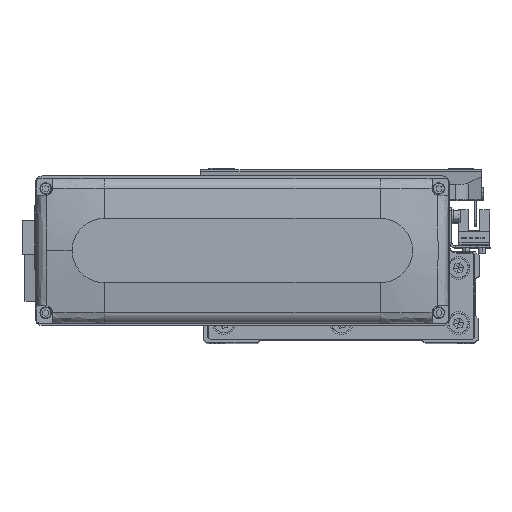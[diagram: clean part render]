
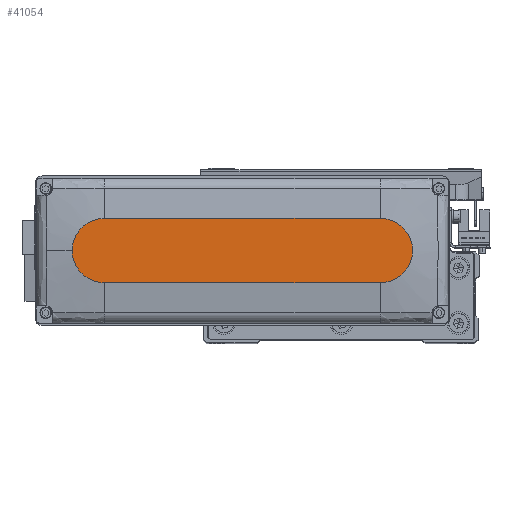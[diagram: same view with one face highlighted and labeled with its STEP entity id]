
A CAD part, top view. The second image highlights one B-rep face of the part: STEP entity #41054.
In plain terms, the highlighted planar face has unit normal (0, 0, 1).
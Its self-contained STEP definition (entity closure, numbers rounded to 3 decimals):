
#664 = CARTESIAN_POINT ( 'NONE',  ( 60., -14., 28.5 ) ) ;
#2404 = DIRECTION ( 'NONE',  ( 1., 0., 0. ) ) ;
#2615 = DIRECTION ( 'NONE',  ( 0., 0., 1. ) ) ;
#3297 = ORIENTED_EDGE ( 'NONE', *, *, #4505, .T. ) ;
#4454 = VERTEX_POINT ( 'NONE', #25184 ) ;
#4505 = EDGE_CURVE ( 'NONE', #14854, #20804, #39301, .T. ) ;
#5170 = VECTOR ( 'NONE', #19083, 1000. ) ;
#5196 = ORIENTED_EDGE ( 'NONE', *, *, #14291, .T. ) ;
#5673 = EDGE_LOOP ( 'NONE', ( #14484, #5196, #3297, #16377, #19877 ) ) ;
#9463 = CARTESIAN_POINT ( 'NONE',  ( 60., 0., 28.5 ) ) ;
#10262 = VERTEX_POINT ( 'NONE', #31784 ) ;
#12797 = EDGE_CURVE ( 'NONE', #20804, #10262, #27511, .T. ) ;
#14291 = EDGE_CURVE ( 'NONE', #37462, #14854, #40288, .T. ) ;
#14484 = ORIENTED_EDGE ( 'NONE', *, *, #26193, .T. ) ;
#14854 = VERTEX_POINT ( 'NONE', #33206 ) ;
#16377 = ORIENTED_EDGE ( 'NONE', *, *, #12797, .T. ) ;
#16586 = CARTESIAN_POINT ( 'NONE',  ( -60., 0., 28.5 ) ) ;
#18879 = CARTESIAN_POINT ( 'NONE',  ( -60., 14., 28.5 ) ) ;
#19083 = DIRECTION ( 'NONE',  ( -1., 0., 0. ) ) ;
#19527 = DIRECTION ( 'NONE',  ( 0., 0., 1. ) ) ;
#19675 = AXIS2_PLACEMENT_3D ( 'NONE', #25147, #2615, #2404 ) ;
#19877 = ORIENTED_EDGE ( 'NONE', *, *, #22577, .T. ) ;
#20804 = VERTEX_POINT ( 'NONE', #664 ) ;
#21781 = CIRCLE ( 'NONE', #27880, 14. ) ;
#22511 = VECTOR ( 'NONE', #26404, 1000. ) ;
#22577 = EDGE_CURVE ( 'NONE', #10262, #4454, #21781, .T. ) ;
#22652 = LINE ( 'NONE', #18879, #5170 ) ;
#24801 = AXIS2_PLACEMENT_3D ( 'NONE', #9463, #25046, #40665 ) ;
#25046 = DIRECTION ( 'NONE',  ( 0., 0., 1. ) ) ;
#25147 = CARTESIAN_POINT ( 'NONE',  ( 0., 0., 28.5 ) ) ;
#25184 = CARTESIAN_POINT ( 'NONE',  ( 60., 14., 28.5 ) ) ;
#26193 = EDGE_CURVE ( 'NONE', #4454, #37462, #22652, .T. ) ;
#26404 = DIRECTION ( 'NONE',  ( 1., 0., 0. ) ) ;
#27165 = DIRECTION ( 'NONE',  ( 1., 0., 0. ) ) ;
#27511 = CIRCLE ( 'NONE', #24801, 14. ) ;
#27880 = AXIS2_PLACEMENT_3D ( 'NONE', #32306, #29133, #27165 ) ;
#29133 = DIRECTION ( 'NONE',  ( 0., 0., 1. ) ) ;
#29462 = DIRECTION ( 'NONE',  ( 1., 0., 0. ) ) ;
#30640 = PLANE ( 'NONE',  #19675 ) ;
#31784 = CARTESIAN_POINT ( 'NONE',  ( 74., 0., 28.5 ) ) ;
#32306 = CARTESIAN_POINT ( 'NONE',  ( 60., 0., 28.5 ) ) ;
#33206 = CARTESIAN_POINT ( 'NONE',  ( -60., -14., 28.5 ) ) ;
#34448 = FACE_OUTER_BOUND ( 'NONE', #5673, .T. ) ;
#34939 = AXIS2_PLACEMENT_3D ( 'NONE', #16586, #19527, #29462 ) ;
#36145 = CARTESIAN_POINT ( 'NONE',  ( -60., 14., 28.5 ) ) ;
#36554 = CARTESIAN_POINT ( 'NONE',  ( -60., -14., 28.5 ) ) ;
#37462 = VERTEX_POINT ( 'NONE', #36145 ) ;
#39301 = LINE ( 'NONE', #36554, #22511 ) ;
#40288 = CIRCLE ( 'NONE', #34939, 14. ) ;
#40665 = DIRECTION ( 'NONE',  ( 1., 0., 0. ) ) ;
#41054 = ADVANCED_FACE ( 'NONE', ( #34448 ), #30640, .T. ) ;
